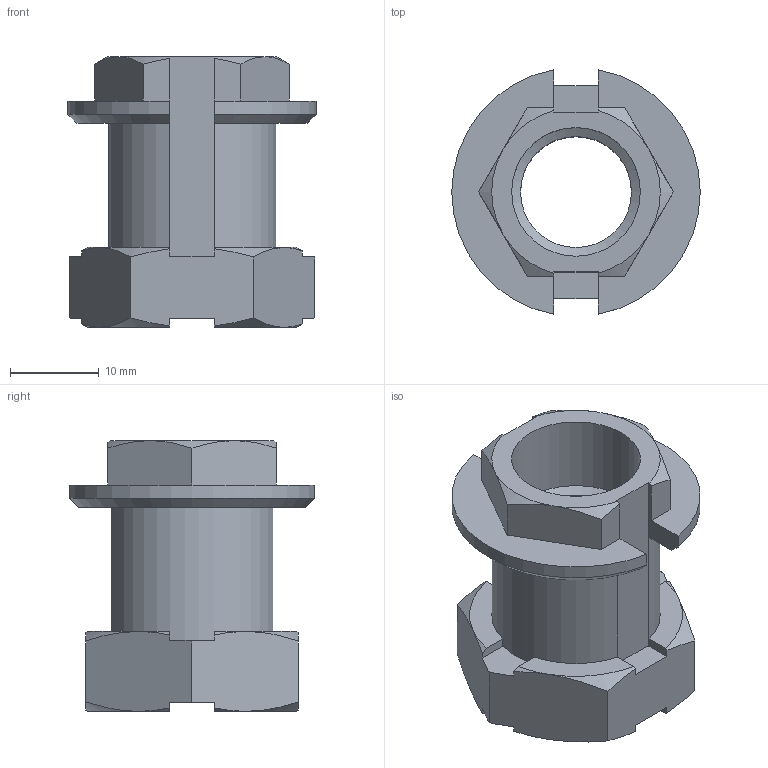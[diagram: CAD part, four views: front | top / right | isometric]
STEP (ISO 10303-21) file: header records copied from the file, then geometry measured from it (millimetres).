
FILE_DESCRIPTION(('STEP AP214'),'1');
FILE_NAME(').stp','2026-03-18T07:50:21',(' '),(' '),'Spatial InterOp 3D',' ',' ');
FILE_SCHEMA(('AUTOMOTIVE_DESIGN { 1 0 10303 214 1 1 1 1 }'));
Length unit declared in the file: millimetre
Products named in the file (3): LFK-M14; NUT; FITTING
Assembly tree (2 placements, depth 2):
  LFK-M14
    NUT
    FITTING
Bounding box: 28 x 27.55 x 30.5 mm (x, y, z)
Volume: 6835.4 mm3; surface area: 5073.8 mm2
Topology: 2 solids, 2 shells, 96 faces, 265 edges, 173 vertices
Faces by surface type: plane 52, cone 29, cylinder 15
Full cylindrical faces by diameter (mm): 12.5 x2, 14.5 x1
Entity records: 3956 total; most frequent: CARTESIAN_POINT 787, ORIENTED_EDGE 516, DIRECTION 446, EDGE_CURVE 258, VERTEX_POINT 170, AXIS2_PLACEMENT_3D 157, LINE 132, VECTOR 132
